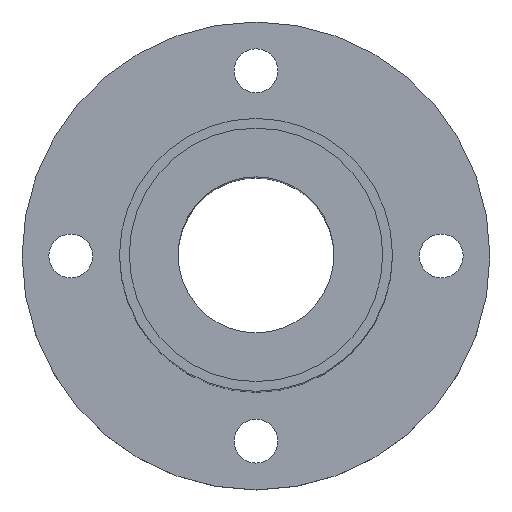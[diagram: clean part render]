
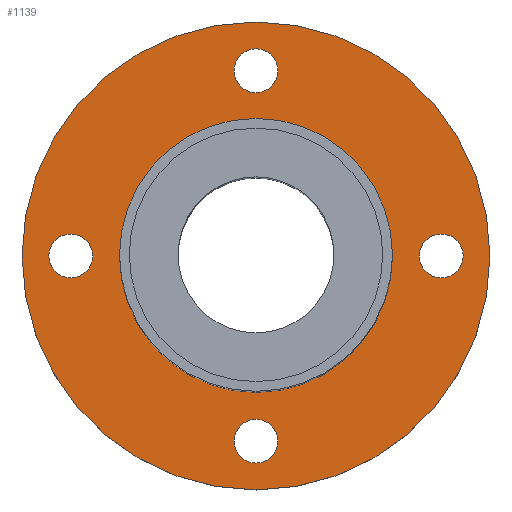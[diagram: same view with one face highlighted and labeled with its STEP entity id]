
A CAD part, top view. The second image highlights one B-rep face of the part: STEP entity #1139.
In plain terms, the highlighted planar face has unit normal (0, 0, 1).
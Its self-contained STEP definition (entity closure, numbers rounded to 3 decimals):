
#51=CARTESIAN_POINT('',(-24.,-0.1,6.));
#52=VERTEX_POINT('',#51);
#68=CARTESIAN_POINT('',(24.,-0.1,6.));
#69=VERTEX_POINT('',#68);
#76=CARTESIAN_POINT('',(0.0,-0.1,6.));
#77=DIRECTION('',(0.0,0.0,-1.0));
#78=DIRECTION('',(-1.0,0.0,0.0));
#79=AXIS2_PLACEMENT_3D('',#76,#77,#78);
#80=CIRCLE('',#79,24.);
#81=EDGE_CURVE('',#69,#52,#80,.T.);
#133=CARTESIAN_POINT('',(-14.,-0.1,6.0));
#134=VERTEX_POINT('',#133);
#143=CARTESIAN_POINT('',(14.,-0.1,6.));
#144=VERTEX_POINT('',#143);
#145=CARTESIAN_POINT('',(0.0,-0.1,6.));
#146=DIRECTION('',(0.0,0.0,-1.0));
#147=DIRECTION('',(-1.0,0.0,0.0));
#148=AXIS2_PLACEMENT_3D('',#145,#146,#147);
#149=CIRCLE('',#148,14.);
#150=EDGE_CURVE('',#144,#134,#149,.T.);
#345=CARTESIAN_POINT('',(0.0,16.65,6.));
#346=VERTEX_POINT('',#345);
#362=CARTESIAN_POINT('',(0.,21.15,6.));
#363=VERTEX_POINT('',#362);
#370=CARTESIAN_POINT('',(0.0,18.9,6.));
#371=DIRECTION('',(0.0,0.0,-1.0));
#372=DIRECTION('',(0.0,-1.0,0.0));
#373=AXIS2_PLACEMENT_3D('',#370,#371,#372);
#374=CIRCLE('',#373,2.25);
#375=EDGE_CURVE('',#346,#363,#374,.T.);
#429=CARTESIAN_POINT('',(-16.75,-0.1,6.));
#430=VERTEX_POINT('',#429);
#446=CARTESIAN_POINT('',(-21.25,-0.1,6.));
#447=VERTEX_POINT('',#446);
#454=CARTESIAN_POINT('',(-19.0,-0.1,6.));
#455=DIRECTION('',(0.0,0.0,-1.0));
#456=DIRECTION('',(1.0,0.0,0.0));
#457=AXIS2_PLACEMENT_3D('',#454,#455,#456);
#458=CIRCLE('',#457,2.25);
#459=EDGE_CURVE('',#430,#447,#458,.T.);
#513=CARTESIAN_POINT('',(0.,-16.85,6.));
#514=VERTEX_POINT('',#513);
#530=CARTESIAN_POINT('',(0.,-21.35,6.));
#531=VERTEX_POINT('',#530);
#538=CARTESIAN_POINT('',(0.,-19.1,6.));
#539=DIRECTION('',(0.0,0.0,-1.0));
#540=DIRECTION('',(0.0,1.0,0.0));
#541=AXIS2_PLACEMENT_3D('',#538,#539,#540);
#542=CIRCLE('',#541,2.25);
#543=EDGE_CURVE('',#514,#531,#542,.T.);
#597=CARTESIAN_POINT('',(16.75,-0.1,6.));
#598=VERTEX_POINT('',#597);
#614=CARTESIAN_POINT('',(21.25,-0.1,6.));
#615=VERTEX_POINT('',#614);
#622=CARTESIAN_POINT('',(19.0,-0.1,6.));
#623=DIRECTION('',(0.0,0.0,-1.0));
#624=DIRECTION('',(-1.0,0.0,0.0));
#625=AXIS2_PLACEMENT_3D('',#622,#623,#624);
#626=CIRCLE('',#625,2.25);
#627=EDGE_CURVE('',#598,#615,#626,.T.);
#638=CARTESIAN_POINT('',(19.0,-0.1,6.));
#639=DIRECTION('',(0.0,0.0,-1.0));
#640=DIRECTION('',(-1.0,0.0,0.0));
#641=AXIS2_PLACEMENT_3D('',#638,#639,#640);
#642=CIRCLE('',#641,2.25);
#643=EDGE_CURVE('',#615,#598,#642,.T.);
#700=CARTESIAN_POINT('',(0.,-19.1,6.));
#701=DIRECTION('',(0.0,0.0,-1.0));
#702=DIRECTION('',(0.0,1.0,0.0));
#703=AXIS2_PLACEMENT_3D('',#700,#701,#702);
#704=CIRCLE('',#703,2.25);
#705=EDGE_CURVE('',#531,#514,#704,.T.);
#762=CARTESIAN_POINT('',(-19.0,-0.1,6.));
#763=DIRECTION('',(0.0,0.0,-1.0));
#764=DIRECTION('',(1.0,0.0,0.0));
#765=AXIS2_PLACEMENT_3D('',#762,#763,#764);
#766=CIRCLE('',#765,2.25);
#767=EDGE_CURVE('',#447,#430,#766,.T.);
#824=CARTESIAN_POINT('',(0.0,18.9,6.));
#825=DIRECTION('',(0.0,0.0,-1.0));
#826=DIRECTION('',(0.0,-1.0,0.0));
#827=AXIS2_PLACEMENT_3D('',#824,#825,#826);
#828=CIRCLE('',#827,2.25);
#829=EDGE_CURVE('',#363,#346,#828,.T.);
#1056=CARTESIAN_POINT('',(0.0,-0.1,6.));
#1057=DIRECTION('',(0.0,0.0,-1.0));
#1058=DIRECTION('',(-1.0,0.0,0.0));
#1059=AXIS2_PLACEMENT_3D('',#1056,#1057,#1058);
#1060=CIRCLE('',#1059,14.);
#1061=EDGE_CURVE('',#134,#144,#1060,.T.);
#1098=CARTESIAN_POINT('',(0.0,-0.1,6.));
#1099=DIRECTION('',(0.0,0.0,-1.0));
#1100=DIRECTION('',(-1.0,0.0,0.0));
#1101=AXIS2_PLACEMENT_3D('',#1098,#1099,#1100);
#1102=CIRCLE('',#1101,24.);
#1103=EDGE_CURVE('',#52,#69,#1102,.T.);
#1110=CARTESIAN_POINT('',(0.0,-0.1,6.));
#1111=DIRECTION('',(0.0,0.0,-1.0));
#1112=DIRECTION('',(-1.0,0.0,0.0));
#1113=AXIS2_PLACEMENT_3D('',#1110,#1111,#1112);
#1114=PLANE('',#1113);
#1115=ORIENTED_EDGE('',*,*,#81,.F.);
#1116=ORIENTED_EDGE('',*,*,#1103,.F.);
#1117=EDGE_LOOP('',(#1115,#1116));
#1118=FACE_OUTER_BOUND('',#1117,.T.);
#1119=ORIENTED_EDGE('',*,*,#627,.T.);
#1120=ORIENTED_EDGE('',*,*,#643,.T.);
#1121=EDGE_LOOP('',(#1119,#1120));
#1122=FACE_BOUND('',#1121,.T.);
#1123=ORIENTED_EDGE('',*,*,#543,.T.);
#1124=ORIENTED_EDGE('',*,*,#705,.T.);
#1125=EDGE_LOOP('',(#1123,#1124));
#1126=FACE_BOUND('',#1125,.T.);
#1127=ORIENTED_EDGE('',*,*,#459,.T.);
#1128=ORIENTED_EDGE('',*,*,#767,.T.);
#1129=EDGE_LOOP('',(#1127,#1128));
#1130=FACE_BOUND('',#1129,.T.);
#1131=ORIENTED_EDGE('',*,*,#375,.T.);
#1132=ORIENTED_EDGE('',*,*,#829,.T.);
#1133=EDGE_LOOP('',(#1131,#1132));
#1134=FACE_BOUND('',#1133,.T.);
#1135=ORIENTED_EDGE('',*,*,#150,.T.);
#1136=ORIENTED_EDGE('',*,*,#1061,.T.);
#1137=EDGE_LOOP('',(#1135,#1136));
#1138=FACE_BOUND('',#1137,.T.);
#1139=ADVANCED_FACE('',(#1118,#1122,#1126,#1130,#1134,#1138),#1114,.F.);
